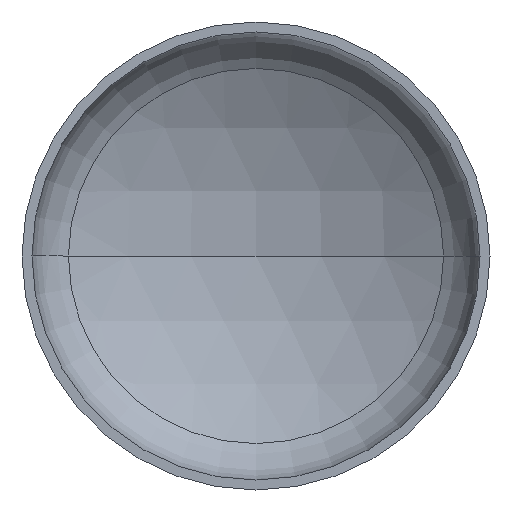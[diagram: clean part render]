
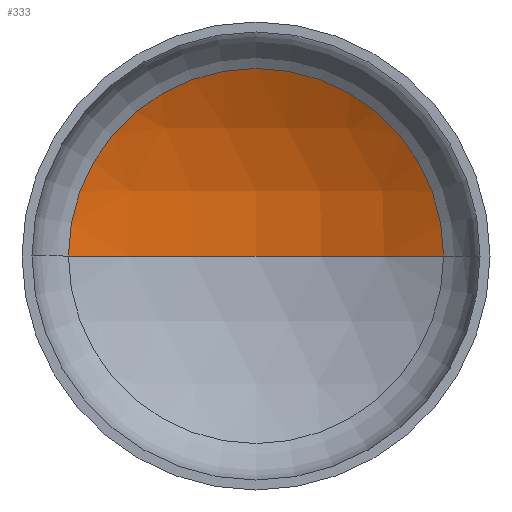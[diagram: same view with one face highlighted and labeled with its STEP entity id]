
A CAD part, front view. The second image highlights one B-rep face of the part: STEP entity #333.
In plain terms, the highlighted spherical face has radius 640 mm.
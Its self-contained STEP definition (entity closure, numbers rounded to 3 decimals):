
#18 = EDGE_LOOP ( 'NONE', ( #121, #150, #112 ) ) ;
#25 = AXIS2_PLACEMENT_3D ( 'NONE', #209, #373, #237 ) ;
#26 = AXIS2_PLACEMENT_3D ( 'NONE', #206, #207, #194 ) ;
#27 = AXIS2_PLACEMENT_3D ( 'NONE', #295, #219, #218 ) ;
#70 = EDGE_CURVE ( 'NONE', #154, #179, #405, .T. ) ;
#71 = EDGE_CURVE ( 'NONE', #81, #154, #230, .T. ) ;
#72 = EDGE_CURVE ( 'NONE', #81, #179, #141, .T. ) ;
#81 = VERTEX_POINT ( 'NONE', #296 ) ;
#112 = ORIENTED_EDGE ( 'NONE', *, *, #70, .T. ) ;
#121 = ORIENTED_EDGE ( 'NONE', *, *, #72, .F. ) ;
#138 = CARTESIAN_POINT ( 'NONE',  ( 0., -390.714, 0. ) ) ;
#141 = CIRCLE ( 'NONE', #25, 640. ) ;
#150 = ORIENTED_EDGE ( 'NONE', *, *, #71, .T. ) ;
#154 = VERTEX_POINT ( 'NONE', #181 ) ;
#171 = DIRECTION ( 'NONE',  ( -1., 0., 0. ) ) ;
#179 = VERTEX_POINT ( 'NONE', #240 ) ;
#181 = CARTESIAN_POINT ( 'NONE',  ( 320.621, 163.183, 0. ) ) ;
#194 = DIRECTION ( 'NONE',  ( -1., 0., 0. ) ) ;
#206 = CARTESIAN_POINT ( 'NONE',  ( 0., -390.714, 0. ) ) ;
#207 = DIRECTION ( 'NONE',  ( 0., 0., -1. ) ) ;
#209 = CARTESIAN_POINT ( 'NONE',  ( 0., -390.714, 0. ) ) ;
#212 = AXIS2_PLACEMENT_3D ( 'NONE', #138, #376, #171 ) ;
#218 = DIRECTION ( 'NONE',  ( 1., 0., 0. ) ) ;
#219 = DIRECTION ( 'NONE',  ( 0., -1., 0. ) ) ;
#230 = CIRCLE ( 'NONE', #26, 640. ) ;
#237 = DIRECTION ( 'NONE',  ( 1., 0., 0. ) ) ;
#240 = CARTESIAN_POINT ( 'NONE',  ( -320.621, 163.183, 0. ) ) ;
#264 = FACE_OUTER_BOUND ( 'NONE', #18, .T. ) ;
#295 = CARTESIAN_POINT ( 'NONE',  ( 0., 163.183, 0. ) ) ;
#296 = CARTESIAN_POINT ( 'NONE',  ( 0., 249.286, 0. ) ) ;
#333 = ADVANCED_FACE ( 'NONE', ( #264 ), #378, .F. ) ;
#373 = DIRECTION ( 'NONE',  ( 0., 0., 1. ) ) ;
#376 = DIRECTION ( 'NONE',  ( 0., 0., -1. ) ) ;
#378 = SPHERICAL_SURFACE ( 'NONE', #212, 640. ) ;
#405 = CIRCLE ( 'NONE', #27, 320.621 ) ;
